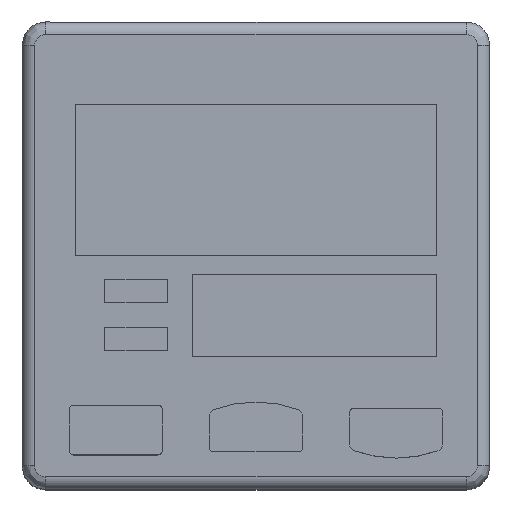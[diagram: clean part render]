
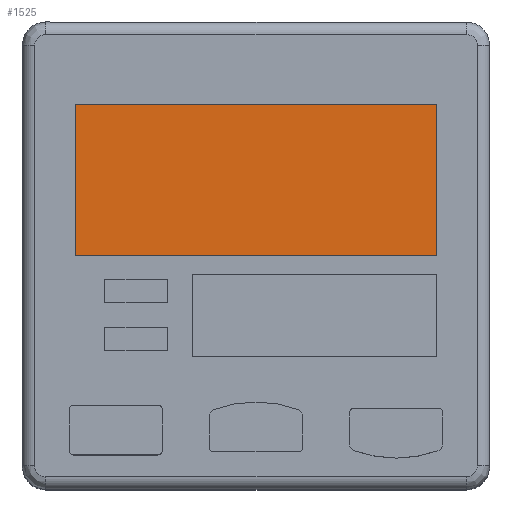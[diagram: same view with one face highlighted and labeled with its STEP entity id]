
A CAD part, top view. The second image highlights one B-rep face of the part: STEP entity #1525.
In plain terms, the highlighted planar face has unit normal (0, 0, 1).
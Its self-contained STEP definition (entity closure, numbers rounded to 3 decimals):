
#1449 = VERTEX_POINT ( 'NONE', #5235 ) ;
#1461 = VERTEX_POINT ( 'NONE', #5265 ) ;
#1462 = VERTEX_POINT ( 'NONE', #5262 ) ;
#1464 = EDGE_LOOP ( 'NONE', ( #1527, #1530, #1478, #1510 ) ) ;
#1478 = ORIENTED_EDGE ( 'NONE', *, *, #1531, .T. ) ;
#1508 = EDGE_CURVE ( 'NONE', #1526, #1462, #5354, .T. ) ;
#1510 = ORIENTED_EDGE ( 'NONE', *, *, #1508, .T. ) ;
#1525 = ADVANCED_FACE ( 'NONE', ( #5387 ), #5328, .T. ) ;
#1526 = VERTEX_POINT ( 'NONE', #5385 ) ;
#1527 = ORIENTED_EDGE ( 'NONE', *, *, #1529, .T. ) ;
#1528 = EDGE_CURVE ( 'NONE', #1449, #1461, #5384, .T. ) ;
#1529 = EDGE_CURVE ( 'NONE', #1462, #1449, #5333, .T. ) ;
#1530 = ORIENTED_EDGE ( 'NONE', *, *, #1528, .T. ) ;
#1531 = EDGE_CURVE ( 'NONE', #1461, #1526, #5373, .T. ) ;
#5235 = CARTESIAN_POINT ( 'NONE',  ( -11.6, 0., -0.1 ) ) ;
#5262 = CARTESIAN_POINT ( 'NONE',  ( -11.6, 9.7, -0.1 ) ) ;
#5265 = CARTESIAN_POINT ( 'NONE',  ( 11.6, 0., -0.1 ) ) ;
#5327 = DIRECTION ( 'NONE',  ( 0., 0., 1. ) ) ;
#5328 = PLANE ( 'NONE',  #5389 ) ;
#5333 = LINE ( 'NONE', #5377, #5376 ) ;
#5337 = CARTESIAN_POINT ( 'NONE',  ( -11.6, 0., -0.1 ) ) ;
#5351 = DIRECTION ( 'NONE',  ( -1., 0., 0. ) ) ;
#5352 = VECTOR ( 'NONE', #5351, 1000. ) ;
#5353 = CARTESIAN_POINT ( 'NONE',  ( 0., 9.7, -0.1 ) ) ;
#5354 = LINE ( 'NONE', #5353, #5352 ) ;
#5370 = DIRECTION ( 'NONE',  ( 0., 1., 0. ) ) ;
#5371 = VECTOR ( 'NONE', #5370, 1000. ) ;
#5372 = CARTESIAN_POINT ( 'NONE',  ( 11.6, 4.85, -0.1 ) ) ;
#5373 = LINE ( 'NONE', #5372, #5371 ) ;
#5375 = DIRECTION ( 'NONE',  ( 0., -1., 0. ) ) ;
#5376 = VECTOR ( 'NONE', #5375, 1000. ) ;
#5377 = CARTESIAN_POINT ( 'NONE',  ( -11.6, 4.85, -0.1 ) ) ;
#5378 = DIRECTION ( 'NONE',  ( 1., 0., 0. ) ) ;
#5379 = VECTOR ( 'NONE', #5378, 1000. ) ;
#5380 = CARTESIAN_POINT ( 'NONE',  ( 0., 0., -0.1 ) ) ;
#5383 = DIRECTION ( 'NONE',  ( 1., 0., 0. ) ) ;
#5384 = LINE ( 'NONE', #5380, #5379 ) ;
#5385 = CARTESIAN_POINT ( 'NONE',  ( 11.6, 9.7, -0.1 ) ) ;
#5387 = FACE_OUTER_BOUND ( 'NONE', #1464, .T. ) ;
#5389 = AXIS2_PLACEMENT_3D ( 'NONE', #5337, #5327, #5383 ) ;
